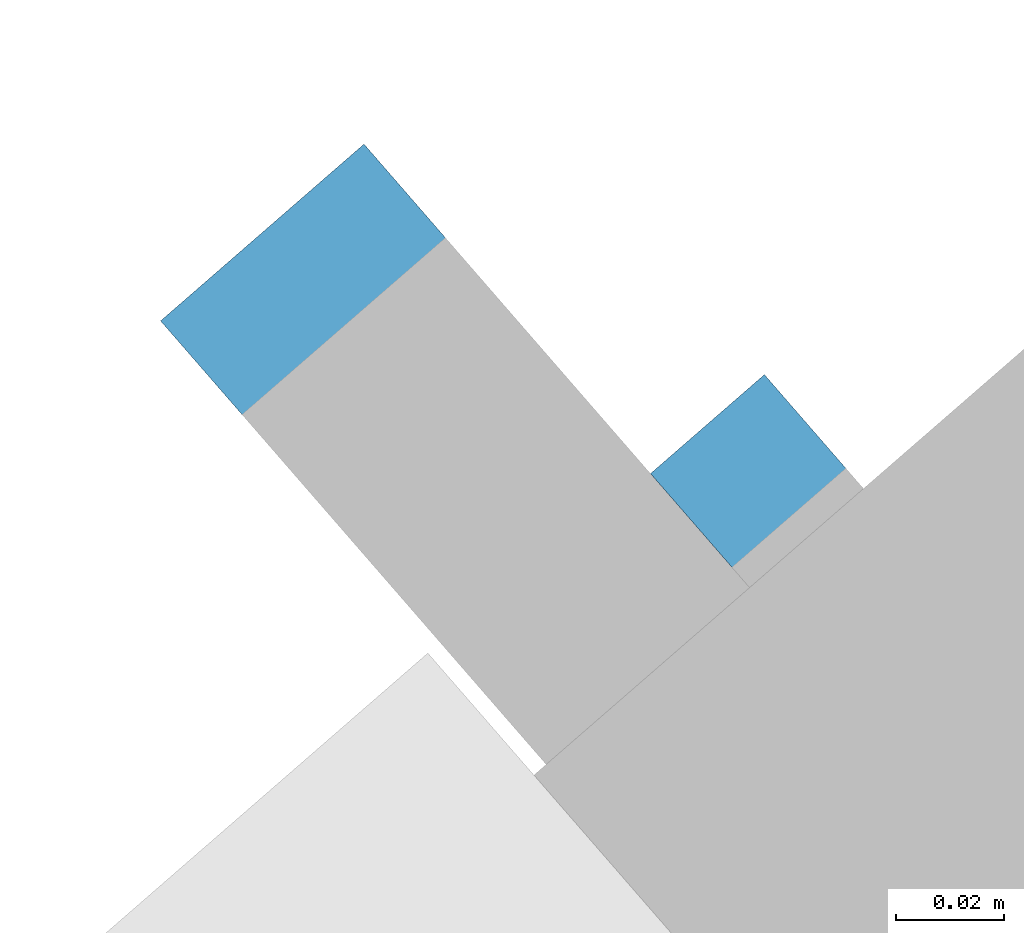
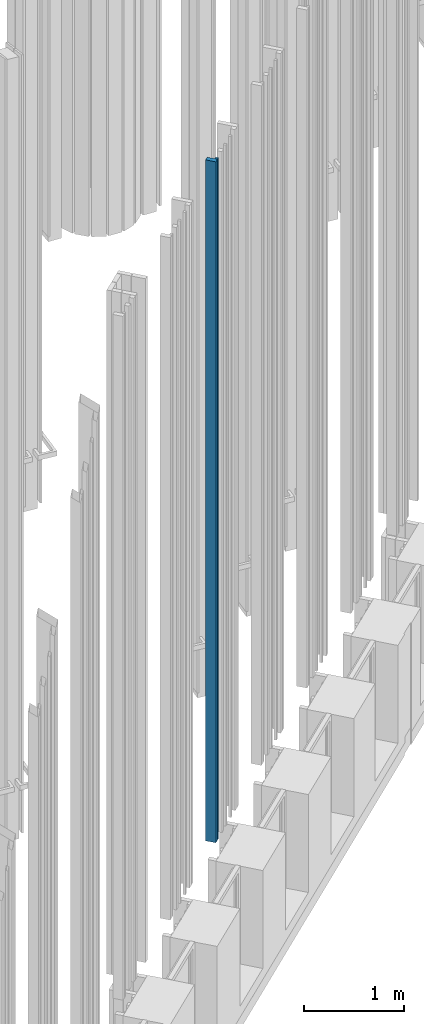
# One storey, part 243 of 390: 2 walls.
"""IFC2X3 building model written with IfcOpenShell, lengths in millimetres."""

from ifc_helpers import new_model, entity, si_unit, converted_unit, derived_unit, money_unit, direction, frame, origin_with_axes, place, context, subcontext, project, spatial, faceted_brep, material, type_object, element, save


model = new_model("IFC2X3")

# Units and contexts
model_context = context("Model", 3, precision=1e-05, world=origin_with_axes(), true_north=direction((0.0, 1.0)))
body_context = subcontext(model_context, "Body", "Model", "MODEL_VIEW")
ifc_project = project(units=[si_unit("LENGTHUNIT", "METRE", prefix="MILLI"), si_unit("AREAUNIT", "SQUARE_METRE"), si_unit("VOLUMEUNIT", "CUBIC_METRE"), converted_unit("PLANEANGLEUNIT", "DEGREE", entity("IfcPlaneAngleMeasure", 0.0174532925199), si_unit("PLANEANGLEUNIT", "RADIAN"), dimensions=[0, 0, 0, 0, 0, 0, 0]), si_unit("SOLIDANGLEUNIT", "STERADIAN"), money_unit("EUR"), converted_unit("TIMEUNIT", "Year", entity("IfcTimeMeasure", 31556926.0), si_unit("TIMEUNIT", "SECOND"), dimensions=[0, 0, 1, 0, 0, 0, 0]), si_unit("MASSUNIT", "GRAM", prefix="KILO"), si_unit("THERMODYNAMICTEMPERATUREUNIT", "DEGREE_CELSIUS"), si_unit("LUMINOUSINTENSITYUNIT", "LUMEN"), si_unit("ENERGYUNIT", "JOULE", prefix="MEGA"), derived_unit("THERMALCONDUCTANCEUNIT", [(si_unit("POWERUNIT", "WATT"), 1), (si_unit("LENGTHUNIT", "METRE"), -1), (si_unit("THERMODYNAMICTEMPERATUREUNIT", "KELVIN"), -1)]), derived_unit("SPECIFICHEATCAPACITYUNIT", [(si_unit("ENERGYUNIT", "JOULE"), 1), (si_unit("MASSUNIT", "GRAM", prefix="KILO"), -1), (si_unit("THERMODYNAMICTEMPERATUREUNIT", "KELVIN"), -1)]), derived_unit("MASSDENSITYUNIT", [(si_unit("MASSUNIT", "GRAM", prefix="KILO"), 1), (si_unit("VOLUMEUNIT", "CUBIC_METRE"), -1)])], contexts=[model_context])

# Site, building, storey
site_placement = place(None, origin_with_axes())
site = spatial("IfcSite", under=ifc_project, at=site_placement, Name="Site", CompositionType="ELEMENT")
building_placement = place(site_placement, origin_with_axes())
building = spatial("IfcBuilding", under=site, at=building_placement, Name="Building", CompositionType="ELEMENT")
storey_placement = place(building_placement, origin_with_axes())
storey = spatial("IfcBuildingStorey", under=building, at=storey_placement, Name="1 korrus", CompositionType="ELEMENT", Elevation=0.0)

# Walls
ifc_material = material(Name="Site specified")
wall_type = type_object("IfcWallType", Name="Puitfassaadi ribistik", PredefinedType="NOTDEFINED")
wall_1_placement = place(storey_placement, frame((144112.906978, 95350.9424566, 1553.00147262), z_axis=(0.0, 0.0, 1.0), x_axis=(0.754709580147, 0.656059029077, 0.0)))
element("IfcWall", 1, at=wall_1_placement, inside=storey, type_object=wall_type, material=ifc_material, Name="Site specified", context=body_context, shape_type="Brep", body=[
    faceted_brep([(25.0, 54.5, 8311.99852738), (25.0, 54.5, 0.0), (-25.0, 54.5, 0.0), (-25.0, 54.5, 8311.99852738), (25.0, -54.5, 8311.99852738), (25.0, -54.5, 0.0), (-25.0, -54.5, 0.0), (-25.0, -54.5, 8311.99852738)], [[[0, 1, 2, 3]], [[4, 5, 1, 0]], [[2, 1, 5, 6]], [[3, 2, 6, 7]], [[4, 0, 3, 7]], [[7, 6, 5, 4]]]),
])
wall_2_placement = place(storey_placement, frame((144168.911043, 95345.9630207, 1553.00147262), z_axis=(0.0, 0.0, 1.0), x_axis=(0.754709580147, 0.656059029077, 0.0)))
element("IfcWall", 2, at=wall_2_placement, inside=storey, type_object=wall_type, material=ifc_material, Name="Site specified", context=body_context, shape_type="Brep", body=[
    faceted_brep([(14.0, 14.0, 8311.99852738), (14.0, 14.0, 0.0), (-14.0, 14.0, 0.0), (-14.0, 14.0, 8311.99852738), (14.0, -14.0, 8311.99852738), (14.0, -14.0, 0.0), (-14.0, -14.0, 0.0), (-14.0, -14.0, 8311.99852738)], [[[0, 1, 2, 3]], [[4, 5, 1, 0]], [[2, 1, 5, 6]], [[3, 2, 6, 7]], [[4, 0, 3, 7]], [[7, 6, 5, 4]]]),
])

save(model, "model.ifc")
